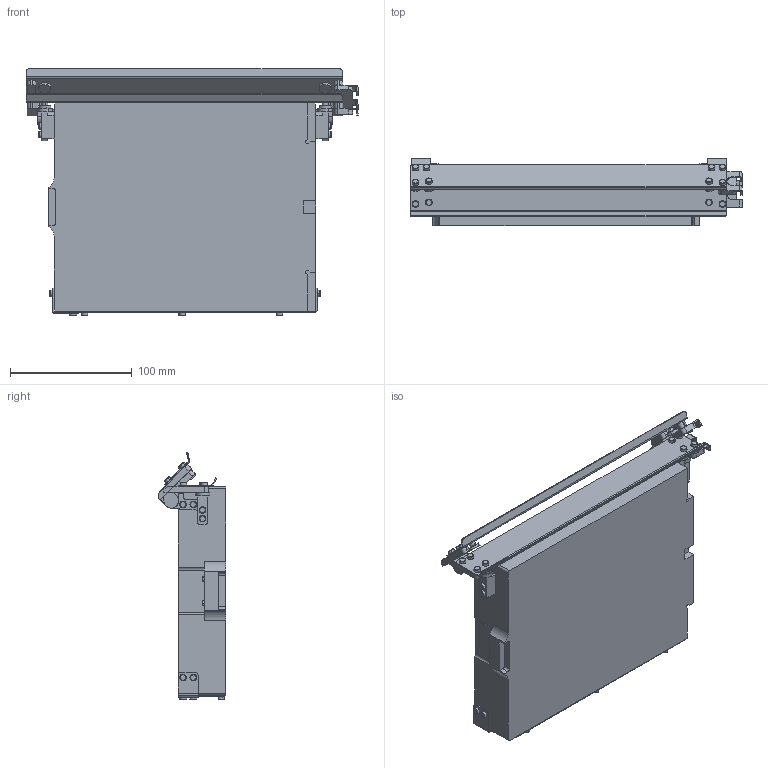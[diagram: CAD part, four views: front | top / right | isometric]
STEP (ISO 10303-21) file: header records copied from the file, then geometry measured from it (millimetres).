
FILE_DESCRIPTION (( 'STEP AP214' ), '1' );
FILE_NAME ('Asyril_PURGE LEFT PLATE 240_XXX.XXX.XXX_(option).STEP', '2021-07-29T12:10:04', ( '' ), ( '' ), 'SwSTEP 2.0', 'SolidWorks 2017', '' );
FILE_SCHEMA (( 'AUTOMOTIVE_DESIGN' ));
Length unit declared in the file: millimetre
Products named in the file (3): Asyril_PURGE LEFT PLATE 240_XXX.XXX.XXX_(CLOSED); Asyril_PURGE LEFT PLATE 240_XXX.XXX.XXX_(option); Asyril_PURGE LEFT PLATE 240_XXX.XXX.XXX_(OPEN)
Assembly tree (2 placements, depth 2):
  Asyril_PURGE LEFT PLATE 240_XXX.XXX.XXX_(option)
    Asyril_PURGE LEFT PLATE 240_XXX.XXX.XXX_(CLOSED)
    Asyril_PURGE LEFT PLATE 240_XXX.XXX.XXX_(OPEN)
Bounding box: 272.5 x 55.2 x 202.47 mm (x, y, z)
Volume: 1130976.2 mm3; surface area: 278823.2 mm2
Topology: 2 solids, 2 shells, 918 faces, 2272 edges, 1424 vertices
Faces by surface type: plane 456, cylinder 230, cone 116, torus 108, sphere 8
Entity records: 34858 total; most frequent: DIRECTION 5048, CARTESIAN_POINT 4619, ORIENTED_EDGE 4544, EDGE_CURVE 2272, AXIS2_PLACEMENT_3D 1853, VERTEX_POINT 1424, LINE 1342, VECTOR 1342
